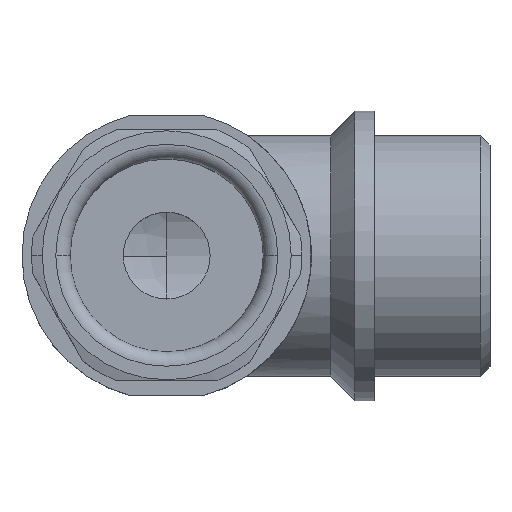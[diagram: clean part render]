
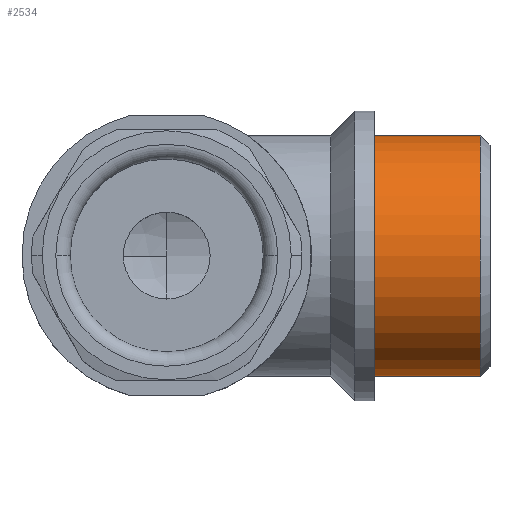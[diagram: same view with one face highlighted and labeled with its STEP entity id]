
A CAD part, top view. The second image highlights one B-rep face of the part: STEP entity #2534.
In plain terms, the highlighted cylindrical face has radius 12.5 mm (diameter 25 mm), a partial arc.
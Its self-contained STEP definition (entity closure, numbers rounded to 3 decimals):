
#854 = DIRECTION ( 'NONE',  ( 1., 0., 0. ) ) ;
#855 = VECTOR ( 'NONE', #854, 1000. ) ;
#856 = CARTESIAN_POINT ( 'NONE',  ( 0., 12.5, 0. ) ) ;
#857 = LINE ( 'NONE', #856, #855 ) ;
#858 = CARTESIAN_POINT ( 'NONE',  ( -1., 12.5, 0. ) ) ;
#859 = DIRECTION ( 'NONE',  ( 0., 1., 0. ) ) ;
#860 = DIRECTION ( 'NONE',  ( 1., 0., 0. ) ) ;
#861 = CARTESIAN_POINT ( 'NONE',  ( -1., 0., 0. ) ) ;
#862 = AXIS2_PLACEMENT_3D ( 'NONE', #861, #860, #859 ) ;
#863 = CIRCLE ( 'NONE', #862, 12.5 ) ;
#864 = CARTESIAN_POINT ( 'NONE',  ( -1., -12.5, 0. ) ) ;
#865 = DIRECTION ( 'NONE',  ( 1., 0., 0. ) ) ;
#866 = VECTOR ( 'NONE', #865, 1000. ) ;
#867 = CARTESIAN_POINT ( 'NONE',  ( 0., -12.5, 0. ) ) ;
#868 = LINE ( 'NONE', #867, #866 ) ;
#869 = CARTESIAN_POINT ( 'NONE',  ( -12., -12.5, 0. ) ) ;
#870 = CARTESIAN_POINT ( 'NONE',  ( -12., 12.5, 0. ) ) ;
#871 = DIRECTION ( 'NONE',  ( 0., 1., 0. ) ) ;
#872 = DIRECTION ( 'NONE',  ( 1., 0., 0. ) ) ;
#873 = CARTESIAN_POINT ( 'NONE',  ( -12., 0., 0. ) ) ;
#874 = AXIS2_PLACEMENT_3D ( 'NONE', #873, #872, #871 ) ;
#875 = CIRCLE ( 'NONE', #874, 12.5 ) ;
#1153 = DIRECTION ( 'NONE',  ( 0., 1., 0. ) ) ;
#1154 = DIRECTION ( 'NONE',  ( 1., 0., 0. ) ) ;
#1155 = CARTESIAN_POINT ( 'NONE',  ( 0., 0., 0. ) ) ;
#1156 = AXIS2_PLACEMENT_3D ( 'NONE', #1155, #1154, #1153 ) ;
#1157 = CYLINDRICAL_SURFACE ( 'NONE', #1156, 12.5 ) ;
#1158 = FACE_OUTER_BOUND ( 'NONE', #2535, .T. ) ;
#2475 = ORIENTED_EDGE ( 'NONE', *, *, #2476, .T. ) ;
#2476 = EDGE_CURVE ( 'NONE', #2477, #2478, #875, .T. ) ;
#2477 = VERTEX_POINT ( 'NONE', #870 ) ;
#2478 = VERTEX_POINT ( 'NONE', #869 ) ;
#2479 = ORIENTED_EDGE ( 'NONE', *, *, #2480, .T. ) ;
#2480 = EDGE_CURVE ( 'NONE', #2478, #2481, #868, .T. ) ;
#2481 = VERTEX_POINT ( 'NONE', #864 ) ;
#2482 = ORIENTED_EDGE ( 'NONE', *, *, #2483, .F. ) ;
#2483 = EDGE_CURVE ( 'NONE', #2484, #2481, #863, .T. ) ;
#2484 = VERTEX_POINT ( 'NONE', #858 ) ;
#2485 = ORIENTED_EDGE ( 'NONE', *, *, #2486, .F. ) ;
#2486 = EDGE_CURVE ( 'NONE', #2477, #2484, #857, .T. ) ;
#2534 = ADVANCED_FACE ( 'NONE', ( #1158 ), #1157, .T. ) ;
#2535 = EDGE_LOOP ( 'NONE', ( #2475, #2479, #2482, #2485 ) ) ;
